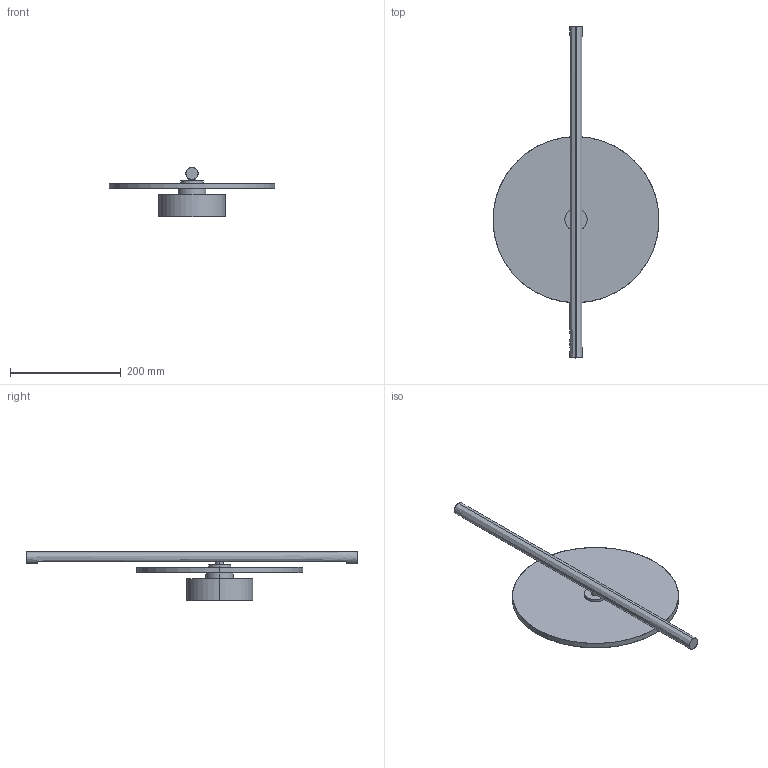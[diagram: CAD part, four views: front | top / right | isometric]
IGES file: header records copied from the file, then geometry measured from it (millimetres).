
Start section: SolidWorks IGES file using analytic representation for surfaces
Global section: file name: C:\Users\adrian\Desktop\MODELADOS USA\POINT\AU1328_POINT.IGS; native system: SolidWorks 2023; preprocessor: SolidWorks 2023; author: adrian; date: 260605.092447; units: inch
Bounding box: 300 x 600 x 88.88 mm (x, y, z)
Surface area: 236550.6 mm2 (no closed solid volume)
Topology: 0 solids, 0 shells, 38 faces, 1006 edges, 1006 vertices
Faces by surface type: revolution 20, bspline 18
